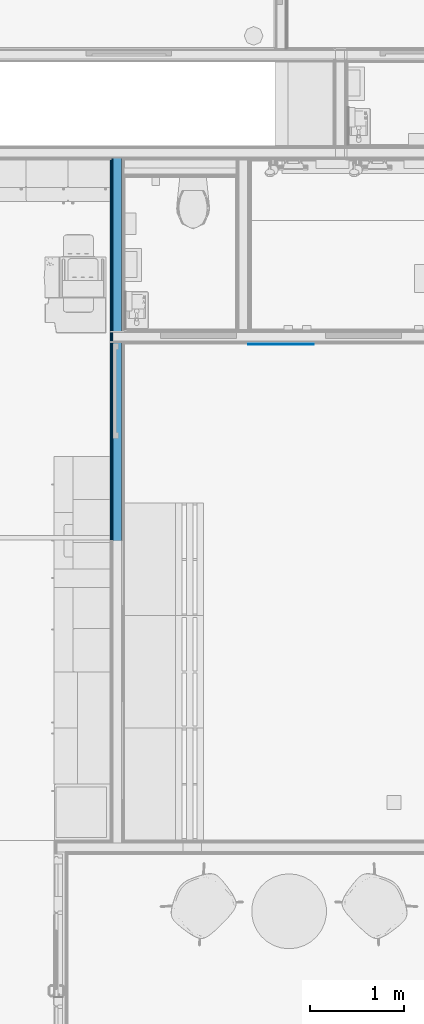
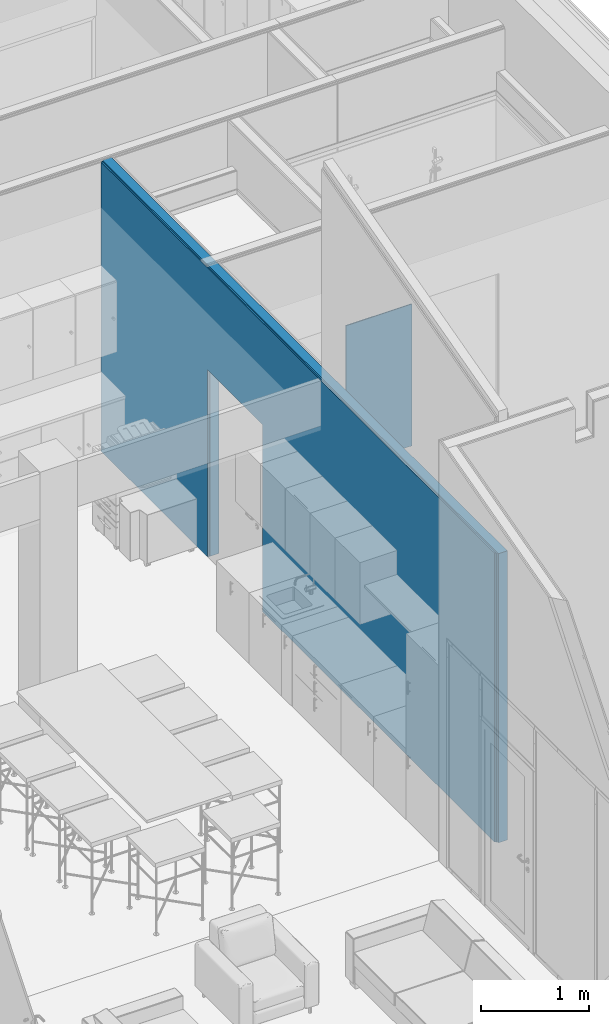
# One storey, part 77 of 153: 3 building element parts, 1 discrete accessory, 1 opening, 1 element without a shape of its own.
"""IFC2X3 building model written with IfcOpenShell, lengths in millimetres."""

from ifc_helpers import new_model, entity, si_unit, converted_unit, derived_unit, money_unit, direction, frame, origin_with_axes, place, context, subcontext, project, spatial, faceted_brep, material, type_object, element, aggregate, save


model = new_model("IFC2X3")

# Units and contexts
model_context = context("Model", 3, precision=0.01, world=origin_with_axes(), true_north=direction((0.0, 1.0)))
body_context = subcontext(model_context, "Body", "Model", "MODEL_VIEW")
ifc_project = project(units=[si_unit("LENGTHUNIT", "METRE", prefix="MILLI"), si_unit("AREAUNIT", "SQUARE_METRE"), si_unit("VOLUMEUNIT", "CUBIC_METRE"), converted_unit("PLANEANGLEUNIT", "DEGREE", entity("IfcPlaneAngleMeasure", 0.0174532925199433), si_unit("PLANEANGLEUNIT", "RADIAN"), dimensions=[0, 0, 0, 0, 0, 0, 0]), money_unit("EUR"), converted_unit("TIMEUNIT", "Year", entity("IfcTimeMeasure", 31557600.0), si_unit("TIMEUNIT", "SECOND"), dimensions=[0, 0, 1, 0, 0, 0, 0]), si_unit("MASSUNIT", "GRAM", prefix="KILO"), si_unit("THERMODYNAMICTEMPERATUREUNIT", "DEGREE_CELSIUS"), si_unit("LUMINOUSINTENSITYUNIT", "LUMEN"), si_unit("ENERGYUNIT", "JOULE", prefix="MEGA"), derived_unit("THERMALCONDUCTANCEUNIT", [(si_unit("POWERUNIT", "WATT"), 1), (si_unit("LENGTHUNIT", "METRE"), -1), (si_unit("THERMODYNAMICTEMPERATUREUNIT", "KELVIN"), -1)]), derived_unit("SPECIFICHEATCAPACITYUNIT", [(si_unit("ENERGYUNIT", "JOULE"), 1), (si_unit("MASSUNIT", "GRAM", prefix="KILO"), -1), (si_unit("THERMODYNAMICTEMPERATUREUNIT", "KELVIN"), -1)]), derived_unit("MASSDENSITYUNIT", [(si_unit("MASSUNIT", "GRAM", prefix="KILO"), 1), (si_unit("VOLUMEUNIT", "CUBIC_METRE"), -1)])], contexts=[model_context])

# Site, building, storey
site_placement = place(None, frame((0.0, 0.0, 8650.0), z_axis=(0.0, 0.0, 1.0), x_axis=(1.0, 0.0, 0.0)))
site = spatial("IfcSite", under=ifc_project, at=site_placement, Name="43301:001:0844", CompositionType="ELEMENT")
building_placement = place(site_placement, origin_with_axes())
building = spatial("IfcBuilding", under=site, at=building_placement, Name="Kuressaare Ametikooli tuulikute mehaanikute õppekorpus", CompositionType="ELEMENT")
storey_placement = place(building_placement, frame((0.0, 0.0, 4100.0), z_axis=(0.0, 0.0, 1.0), x_axis=(1.0, 0.0, 0.0)))
storey = spatial("IfcBuildingStorey", under=building, at=storey_placement, Name="2.korrus", CompositionType="ELEMENT", Elevation=4100.0)

# Discrete accessory
ifc_material_1 = material(Name="GENEERILINE - SISEMINE VOODER")
discrete_accessory_type = type_object("IfcDiscreteAccessoryType", Name="GENEERILINE - SISEMINE VOODER 10")
discrete_accessory_placement = place(storey_placement, frame((130189.9908050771, 18464.04622400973, 500.0), z_axis=(0.0, 0.0, 1.0), x_axis=(0.9999999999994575, 1.041563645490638e-06, 0.0)))
element("IfcDiscreteAccessory", 1, at=discrete_accessory_placement, inside=storey, type_object=discrete_accessory_type, material=ifc_material_1, Name="P3", context=body_context, shape_type="Brep", body=[
    faceted_brep([(0.0, 0.0, 1600.0), (699.9999999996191, -0.0007290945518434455, 1600.0), (700.0000104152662, 9.999270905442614, 1600.0), (1.04156470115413e-05, 9.999999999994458, 1600.0), (0.0, 0.0, 0.0), (699.9999999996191, -0.0007290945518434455, 0.0), (700.0000104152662, 9.999270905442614, 0.0), (1.04156470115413e-05, 9.999999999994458, 0.0)], [[[0, 1, 2, 3]], [[4, 5, 1, 0]], [[2, 1, 5, 6]], [[3, 2, 6, 7]], [[4, 0, 3, 7]], [[7, 6, 5, 4]]]),
])

# Wall, opening, building element parts
wall_type = type_object("IfcWallType", Name="SS-2.2 147", PredefinedType="NOTDEFINED")
wall_placement = place(storey_placement, frame((128717.9907946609, 20587.06892395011, 0.0), z_axis=(0.0, 0.0, 1.0), x_axis=(0.0, -1.0, 0.0)))
wall = element("IfcWall", 2, at=wall_placement, inside=storey, type_object=wall_type, Name="Sisesein")
opening_placement = place(wall_placement, frame((2618.022048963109, 0.0, 0.0), z_axis=(0.0, 0.0, 1.0), x_axis=(1.0, 0.0, 0.0)))
element("IfcOpeningElement", 3, at=opening_placement, cuts=wall, Name="PU10,dB", context=body_context, shape_type="Brep", body=[
    faceted_brep([(504.999999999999, 147.9999999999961, 2110.0), (504.999999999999, 147.9999999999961, 0.0), (-504.999999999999, 147.9999999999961, 0.0), (-504.999999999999, 147.9999999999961, 2110.0), (504.999999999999, -1.000000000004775, 2110.0), (504.999999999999, -1.000000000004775, 0.0), (-504.999999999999, -1.000000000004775, 0.0), (-504.999999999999, -1.000000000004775, 2110.0)], [[[0, 1, 2, 3]], [[4, 5, 1, 0]], [[5, 6, 2, 1]], [[6, 7, 3, 2]], [[7, 4, 0, 3]], [[6, 5, 4, 7]]]),
])
ifc_material_2 = material(Name="Soojustus - Mineraalvill pehme")
building_element_part_1_placement = place(wall_placement, origin_with_axes())
building_element_part_1 = element("IfcBuildingElementPart", 4, at=building_element_part_1_placement, material=ifc_material_2, Name="Soojustus - Mineraalvill pehme", context=body_context, shape_type="Brep", body=[
    faceted_brep([(3123.022048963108, 121.0000000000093, 0.0), (3123.022048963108, 121.0000000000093, 2110.0), (2113.02204896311, 121.0000000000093, 2110.0), (2113.02204896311, 121.0000000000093, 0.0), (120.9999999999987, 121.0000000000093, 0.0), (120.9999999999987, 121.0000000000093, 3260.712739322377), (7442.022202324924, 121.0000000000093, 3260.712739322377), (7442.022202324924, 121.0000000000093, 0.0), (3123.022048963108, 26.00000000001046, 0.0), (3123.022048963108, 26.00000000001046, 2110.0), (2113.02204896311, 26.00000000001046, 2110.0), (2113.02204896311, 26.00000000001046, 0.0), (120.9999999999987, 26.00000000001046, 0.0), (120.9999999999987, 26.00000000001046, 3260.712739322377), (7442.022202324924, 26.00000000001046, 3260.712739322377), (7442.022202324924, 26.00000000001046, 0.0)], [[[0, 1, 2, 3, 4, 5, 6, 7]], [[1, 0, 8, 9]], [[2, 1, 9, 10]], [[3, 2, 10, 11]], [[3, 11, 12, 4]], [[5, 4, 12, 13]], [[5, 13, 14, 6]], [[15, 7, 6, 14]], [[8, 0, 7, 15]], [[9, 8, 15, 14, 13, 12, 11, 10]]]),
])
ifc_material_3 = material(Name="Kipsplaat")
building_element_part_2_placement = place(wall_placement, origin_with_axes())
building_element_part_2 = element("IfcBuildingElementPart", 5, at=building_element_part_2_placement, material=ifc_material_3, Name="Kipsplaat", context=body_context, shape_type="Brep", body=[
    faceted_brep([(3123.022048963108, 13.00000000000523, 0.0), (3123.022048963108, 13.00000000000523, 2110.0), (2113.02204896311, 13.00000000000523, 2110.0), (2113.02204896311, 13.00000000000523, 0.0), (146.9999999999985, 13.00000000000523, 0.0), (146.9999999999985, 13.00000000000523, 3260.712739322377), (7416.022202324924, 13.00000000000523, 3260.712739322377), (7416.022202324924, 13.00000000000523, 0.0), (3123.022048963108, 0.0, 0.0), (3123.022048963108, 0.0, 2110.0), (2113.02204896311, 0.0, 2110.0), (2113.02204896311, 0.0, 0.0), (146.9999999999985, 0.0, 0.0), (146.9999999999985, 0.0, 3260.712739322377), (7416.022202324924, 0.0, 3260.712739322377), (7416.022202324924, 0.0, 0.0)], [[[0, 1, 2, 3, 4, 5, 6, 7]], [[1, 0, 8, 9]], [[2, 1, 9, 10]], [[3, 2, 10, 11]], [[3, 11, 12, 4]], [[5, 4, 12, 13]], [[5, 13, 14, 6]], [[15, 7, 6, 14]], [[8, 0, 7, 15]], [[9, 8, 15, 14, 13, 12, 11, 10]]]),
])
building_element_part_3_placement = place(wall_placement, origin_with_axes())
building_element_part_3 = element("IfcBuildingElementPart", 6, at=building_element_part_3_placement, material=ifc_material_3, Name="Kipsplaat", context=body_context, shape_type="Brep", body=[
    faceted_brep([(3123.022048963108, 26.00000000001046, 0.0), (3123.022048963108, 26.00000000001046, 2110.0), (2113.02204896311, 26.00000000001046, 2110.0), (2113.02204896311, 26.00000000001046, 0.0), (134.0000000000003, 26.00000000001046, 0.0), (134.0000000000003, 26.00000000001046, 3260.712739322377), (7429.022202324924, 26.00000000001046, 3260.712739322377), (7429.022202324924, 26.00000000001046, 0.0), (3123.022048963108, 13.00000000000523, 0.0), (3123.022048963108, 13.00000000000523, 2110.0), (2113.02204896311, 13.00000000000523, 2110.0), (2113.02204896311, 13.00000000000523, 0.0), (134.0000000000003, 13.00000000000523, 0.0), (134.0000000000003, 13.00000000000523, 3260.712739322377), (7429.022202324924, 13.00000000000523, 3260.712739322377), (7429.022202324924, 13.00000000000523, 0.0)], [[[0, 1, 2, 3, 4, 5, 6, 7]], [[1, 0, 8, 9]], [[2, 1, 9, 10]], [[3, 2, 10, 11]], [[3, 11, 12, 4]], [[5, 4, 12, 13]], [[5, 13, 14, 6]], [[15, 7, 6, 14]], [[8, 0, 7, 15]], [[9, 8, 15, 14, 13, 12, 11, 10]]]),
])
aggregate(wall, [building_element_part_1, building_element_part_2, building_element_part_3])

save(model, "model.ifc")
